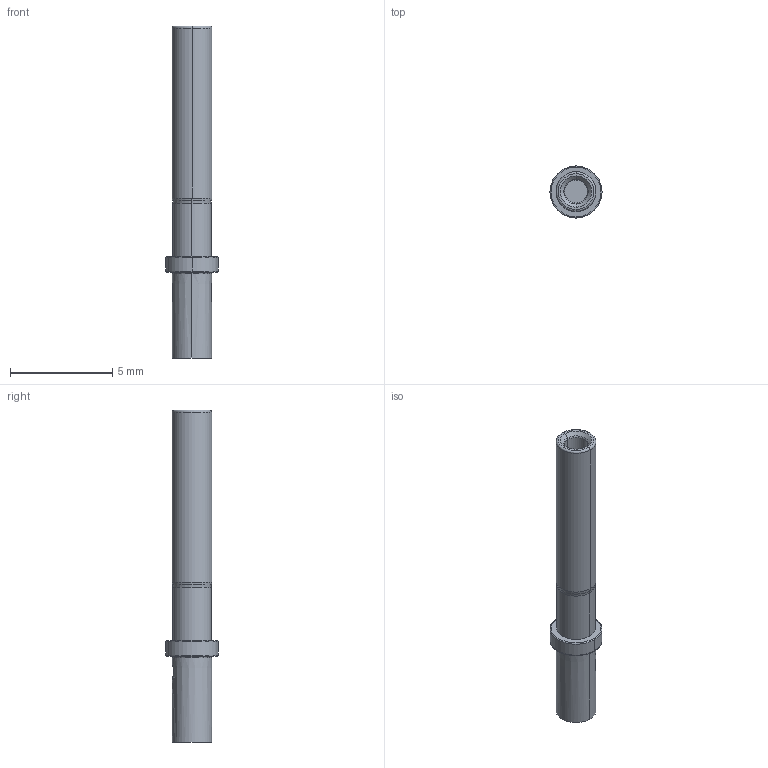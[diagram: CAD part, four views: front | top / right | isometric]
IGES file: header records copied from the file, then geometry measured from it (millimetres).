
Start section:  PTC IGES file: c-0462-201-20141-99-3d.igs
Global section: file name: c-0462-201-20141-99-3d.igs; native system: Pro/ENGINEER by Parametric Technology Corporation; preprocessor: 2011490; author: workeradm; organization: Unknown; units: millimetre
Bounding box: 2.54 x 2.54 x 16.21 mm (x, y, z)
Surface area: 116.7 mm2 (no closed solid volume)
Topology: 0 solids, 0 shells, 39 faces, 158 edges, 158 vertices
Faces by surface type: revolution 33, bspline 6
